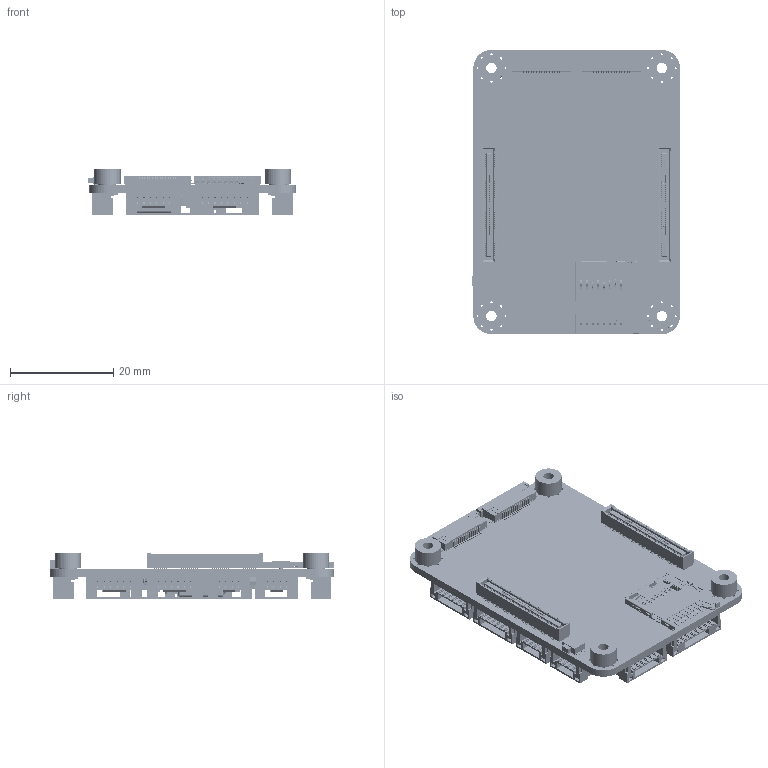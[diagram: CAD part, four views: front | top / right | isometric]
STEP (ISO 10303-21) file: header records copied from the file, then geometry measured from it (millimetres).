
FILE_DESCRIPTION(/* description */ ('KiCad electronic assembly'),/* implementation_level */ '2;1');
FILE_NAME(/* name */ 'pascal revb public.step',/* time_stamp */ '2026-07-06T15:58:34+03:00',/* author */ (''),/* organization */ (''),/* preprocessor_version */ 'ST-DEVELOPER v20.1',/* originating_system */ 'Autodesk Translation Framework v15.8.0.0',/* authorisation */ '');
FILE_SCHEMA (('AUTOMOTIVE_DESIGN { 1 0 10303 214 3 1 1 }'));
Products named in the file (27): 2026-07-06-12-56-04-897; 2026-07-06-12-56-04-899; 2026-07-06-12-56-04-900; 2026-07-06-12-56-04-901; 2026-07-06-12-56-04-903; 2026-07-06-12-56-04-902; 2026-07-06-12-56-04-906; 2026-07-06-12-56-04-907; 2026-07-06-12-56-04-909; 2026-07-06-12-56-04-910; 2026-07-06-12-56-04-913; 2026-07-06-12-56-04-914; 2026-07-06-12-56-04-915; 2026-07-06-12-56-04-916; 2026-07-06-12-56-04-917; 2026-07-06-12-56-04-918; 2026-07-06-12-56-04-920; 2026-07-06-12-56-04-921; 2026-07-06-12-56-04-922; 2026-07-06-12-56-04-923; 2026-07-06-12-56-04-924; 2026-07-06-12-56-04-905; 2026-07-06-12-56-04-898; 2026-07-06-12-56-04-904; 2026-07-06-12-56-04-912; 2026-07-06-12-56-04-911; 2026-07-06-12-56-04-919
Assembly tree (43 placements, depth 3):
  2026-07-06-12-56-04-897
    2026-07-06-12-56-04-898  x2
    2026-07-06-12-56-04-899
      2026-07-06-12-56-04-900
      2026-07-06-12-56-04-901
      2026-07-06-12-56-04-902  x2
      2026-07-06-12-56-04-903
    2026-07-06-12-56-04-904  x4
    2026-07-06-12-56-04-905  x2
    2026-07-06-12-56-04-906
      2026-07-06-12-56-04-907
    2026-07-06-12-56-04-909
      2026-07-06-12-56-04-910
    2026-07-06-12-56-04-911  x9
    2026-07-06-12-56-04-912  x2
    2026-07-06-12-56-04-913
    2026-07-06-12-56-04-914
      2026-07-06-12-56-04-915
      2026-07-06-12-56-04-916
      2026-07-06-12-56-04-917
    2026-07-06-12-56-04-918
    2026-07-06-12-56-04-919  x3
    2026-07-06-12-56-04-920
    2026-07-06-12-56-04-921
    2026-07-06-12-56-04-922
    2026-07-06-12-56-04-923
    2026-07-06-12-56-04-924
Bounding box: 40.25 x 55.03 x 8.93 mm (x, y, z)
Volume: 5759.3 mm3; surface area: 13813.8 mm2
Topology: 254 solids, 254 shells, 19533 faces, 55494 edges, 36839 vertices
Faces by surface type: plane 16723, cylinder 2750, bspline 48, cone 8, sphere 4
Full cylindrical faces by diameter (mm): 0.235 x2, 0.25 x1, 0.37 x2, 0.4 x1, 0.5 x32, 0.7 x8, 2.013 x4, 3.5 x4, 4.2 x4, 5.1 x4
Entity records: 329243 total; most frequent: CARTESIAN_POINT 58579, ORIENTED_EDGE 56794, DIRECTION 51511, EDGE_CURVE 28397, LINE 25105, VECTOR 25105, VERTEX_POINT 18823, AXIS2_PLACEMENT_3D 13203
